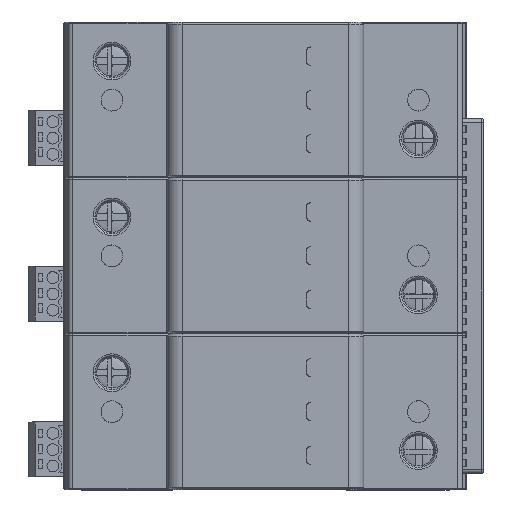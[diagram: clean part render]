
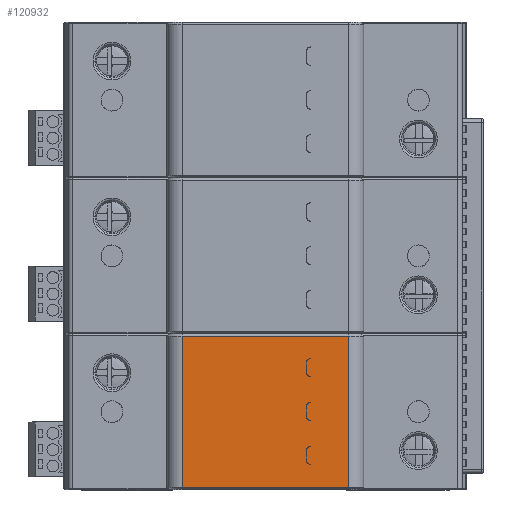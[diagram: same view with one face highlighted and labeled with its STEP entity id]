
A CAD part, top view. The second image highlights one B-rep face of the part: STEP entity #120932.
In plain terms, the highlighted planar face has unit normal (0, 0, 1).
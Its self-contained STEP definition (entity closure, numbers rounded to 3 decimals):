
#19941=DIRECTION('',(-1.,0.,0.));
#19942=VECTOR('',#19941,38.);
#19943=CARTESIAN_POINT('',(64.,0.55,31.2));
#19944=LINE('',#19943,#19942);
#19958=DIRECTION('',(0.,1.,0.));
#19959=VECTOR('',#19958,34.5);
#19960=CARTESIAN_POINT('',(26.,0.55,31.2));
#19961=LINE('',#19960,#19959);
#19966=CARTESIAN_POINT('',(55.45,6.7,31.2));
#19967=DIRECTION('',(0.,0.,1.));
#19968=DIRECTION('',(-1.,0.,0.));
#19969=AXIS2_PLACEMENT_3D('',#19966,#19967,#19968);
#19971=DIRECTION('',(0.,-1.,0.));
#19972=VECTOR('',#19971,2.2);
#19973=CARTESIAN_POINT('',(54.45,8.9,31.2));
#19974=LINE('',#19973,#19972);
#19975=CARTESIAN_POINT('',(55.45,8.9,31.2));
#19976=DIRECTION('',(0.,0.,1.));
#19977=DIRECTION('',(0.,1.,0.));
#19978=AXIS2_PLACEMENT_3D('',#19975,#19976,#19977);
#19980=CARTESIAN_POINT('',(55.4,8.9,31.2));
#19981=DIRECTION('',(0.,0.,-1.));
#19982=DIRECTION('',(-1.,0.,0.));
#19983=AXIS2_PLACEMENT_3D('',#19980,#19981,#19982);
#19985=CARTESIAN_POINT('',(55.4,6.7,31.2));
#19986=DIRECTION('',(0.,0.,-1.));
#19987=DIRECTION('',(0.,-1.,0.));
#19988=AXIS2_PLACEMENT_3D('',#19985,#19986,#19987);
#19990=CARTESIAN_POINT('',(55.45,16.7,31.2));
#19991=DIRECTION('',(0.,0.,1.));
#19992=DIRECTION('',(-1.,0.,0.));
#19993=AXIS2_PLACEMENT_3D('',#19990,#19991,#19992);
#19995=DIRECTION('',(0.,-1.,0.));
#19996=VECTOR('',#19995,2.2);
#19997=CARTESIAN_POINT('',(54.45,18.9,31.2));
#19998=LINE('',#19997,#19996);
#19999=CARTESIAN_POINT('',(55.45,18.9,31.2));
#20000=DIRECTION('',(0.,0.,1.));
#20001=DIRECTION('',(0.,1.,0.));
#20002=AXIS2_PLACEMENT_3D('',#19999,#20000,#20001);
#20004=CARTESIAN_POINT('',(55.4,18.9,31.2));
#20005=DIRECTION('',(0.,0.,-1.));
#20006=DIRECTION('',(-1.,0.,0.));
#20007=AXIS2_PLACEMENT_3D('',#20004,#20005,#20006);
#20009=CARTESIAN_POINT('',(55.4,16.7,31.2));
#20010=DIRECTION('',(0.,0.,-1.));
#20011=DIRECTION('',(0.,-1.,0.));
#20012=AXIS2_PLACEMENT_3D('',#20009,#20010,#20011);
#20014=CARTESIAN_POINT('',(55.45,26.7,31.2));
#20015=DIRECTION('',(0.,0.,1.));
#20016=DIRECTION('',(-1.,0.,0.));
#20017=AXIS2_PLACEMENT_3D('',#20014,#20015,#20016);
#20019=DIRECTION('',(0.,-1.,0.));
#20020=VECTOR('',#20019,2.2);
#20021=CARTESIAN_POINT('',(54.45,28.9,31.2));
#20022=LINE('',#20021,#20020);
#20023=CARTESIAN_POINT('',(55.45,28.9,31.2));
#20024=DIRECTION('',(0.,0.,1.));
#20025=DIRECTION('',(0.,1.,0.));
#20026=AXIS2_PLACEMENT_3D('',#20023,#20024,#20025);
#20028=CARTESIAN_POINT('',(55.4,28.9,31.2));
#20029=DIRECTION('',(0.,0.,-1.));
#20030=DIRECTION('',(-1.,0.,0.));
#20031=AXIS2_PLACEMENT_3D('',#20028,#20029,#20030);
#20033=CARTESIAN_POINT('',(55.4,26.7,31.2));
#20034=DIRECTION('',(0.,0.,-1.));
#20035=DIRECTION('',(0.,-1.,0.));
#20036=AXIS2_PLACEMENT_3D('',#20033,#20034,#20035);
#20042=DIRECTION('',(0.,-1.,0.));
#20043=VECTOR('',#20042,34.5);
#20044=CARTESIAN_POINT('',(64.,35.05,31.2));
#20045=LINE('',#20044,#20043);
#20097=DIRECTION('',(1.,0.,0.));
#20098=VECTOR('',#20097,38.);
#20099=CARTESIAN_POINT('',(26.,35.05,31.2));
#20100=LINE('',#20099,#20098);
#47268=DIRECTION('',(1.,0.,0.));
#47269=VECTOR('',#47268,0.05);
#47270=CARTESIAN_POINT('',(55.4,5.7,31.2));
#47271=LINE('',#47270,#47269);
#50265=DIRECTION('',(0.,-1.,0.));
#50266=VECTOR('',#50265,2.2);
#50267=CARTESIAN_POINT('',(54.4,18.9,31.2));
#50268=LINE('',#50267,#50266);
#50286=DIRECTION('',(1.,0.,0.));
#50287=VECTOR('',#50286,0.05);
#50288=CARTESIAN_POINT('',(55.4,15.7,31.2));
#50289=LINE('',#50288,#50287);
#50332=DIRECTION('',(-1.,0.,0.));
#50333=VECTOR('',#50332,0.05);
#50334=CARTESIAN_POINT('',(55.45,19.9,31.2));
#50335=LINE('',#50334,#50333);
#50541=DIRECTION('',(0.,-1.,0.));
#50542=VECTOR('',#50541,2.2);
#50543=CARTESIAN_POINT('',(54.4,28.9,31.2));
#50544=LINE('',#50543,#50542);
#50562=DIRECTION('',(1.,0.,0.));
#50563=VECTOR('',#50562,0.05);
#50564=CARTESIAN_POINT('',(55.4,25.7,31.2));
#50565=LINE('',#50564,#50563);
#50608=DIRECTION('',(-1.,0.,0.));
#50609=VECTOR('',#50608,0.05);
#50610=CARTESIAN_POINT('',(55.45,29.9,31.2));
#50611=LINE('',#50610,#50609);
#50818=DIRECTION('',(0.,-1.,0.));
#50819=VECTOR('',#50818,2.2);
#50820=CARTESIAN_POINT('',(54.4,8.9,31.2));
#50821=LINE('',#50820,#50819);
#50843=DIRECTION('',(-1.,0.,0.));
#50844=VECTOR('',#50843,0.05);
#50845=CARTESIAN_POINT('',(55.45,9.9,31.2));
#50846=LINE('',#50845,#50844);
#83220=CARTESIAN_POINT('',(55.4,15.7,31.2));
#83221=CARTESIAN_POINT('',(54.4,16.7,31.2));
#83222=VERTEX_POINT('',#83220);
#83223=VERTEX_POINT('',#83221);
#83224=CARTESIAN_POINT('',(54.4,18.9,31.2));
#83225=VERTEX_POINT('',#83224);
#83226=CARTESIAN_POINT('',(55.4,19.9,31.2));
#83227=VERTEX_POINT('',#83226);
#83228=CARTESIAN_POINT('',(55.4,25.7,31.2));
#83229=CARTESIAN_POINT('',(54.4,26.7,31.2));
#83230=VERTEX_POINT('',#83228);
#83231=VERTEX_POINT('',#83229);
#83232=CARTESIAN_POINT('',(54.4,28.9,31.2));
#83233=VERTEX_POINT('',#83232);
#83234=CARTESIAN_POINT('',(55.4,29.9,31.2));
#83235=VERTEX_POINT('',#83234);
#83236=CARTESIAN_POINT('',(55.4,5.7,31.2));
#83237=CARTESIAN_POINT('',(54.4,6.7,31.2));
#83238=VERTEX_POINT('',#83236);
#83239=VERTEX_POINT('',#83237);
#83240=CARTESIAN_POINT('',(54.4,8.9,31.2));
#83241=VERTEX_POINT('',#83240);
#83242=CARTESIAN_POINT('',(55.4,9.9,31.2));
#83243=VERTEX_POINT('',#83242);
#83244=CARTESIAN_POINT('',(64.,35.05,31.2));
#83245=CARTESIAN_POINT('',(64.,0.55,31.2));
#83246=VERTEX_POINT('',#83244);
#83247=VERTEX_POINT('',#83245);
#83248=CARTESIAN_POINT('',(26.,35.05,31.2));
#83249=VERTEX_POINT('',#83248);
#83250=CARTESIAN_POINT('',(26.,0.55,31.2));
#83251=VERTEX_POINT('',#83250);
#84381=CARTESIAN_POINT('',(54.45,8.9,31.2));
#84382=CARTESIAN_POINT('',(54.45,6.7,31.2));
#84383=VERTEX_POINT('',#84381);
#84384=VERTEX_POINT('',#84382);
#84401=CARTESIAN_POINT('',(55.45,9.9,31.2));
#84402=VERTEX_POINT('',#84401);
#84403=CARTESIAN_POINT('',(55.45,5.7,31.2));
#84404=VERTEX_POINT('',#84403);
#84413=CARTESIAN_POINT('',(54.45,18.9,31.2));
#84414=CARTESIAN_POINT('',(54.45,16.7,31.2));
#84415=VERTEX_POINT('',#84413);
#84416=VERTEX_POINT('',#84414);
#84433=CARTESIAN_POINT('',(55.45,19.9,31.2));
#84434=VERTEX_POINT('',#84433);
#84435=CARTESIAN_POINT('',(55.45,15.7,31.2));
#84436=VERTEX_POINT('',#84435);
#84445=CARTESIAN_POINT('',(54.45,28.9,31.2));
#84446=CARTESIAN_POINT('',(54.45,26.7,31.2));
#84447=VERTEX_POINT('',#84445);
#84448=VERTEX_POINT('',#84446);
#84465=CARTESIAN_POINT('',(55.45,29.9,31.2));
#84466=VERTEX_POINT('',#84465);
#84467=CARTESIAN_POINT('',(55.45,25.7,31.2));
#84468=VERTEX_POINT('',#84467);
#120865=CARTESIAN_POINT('',(45.,17.8,31.2));
#120866=DIRECTION('',(0.,0.,1.));
#120867=DIRECTION('',(1.,0.,0.));
#120868=AXIS2_PLACEMENT_3D('',#120865,#120866,#120867);
#120869=PLANE('',#120868);
#120871=ORIENTED_EDGE('',*,*,#120870,.T.);
#120872=ORIENTED_EDGE('',*,*,#120832,.T.);
#120873=ORIENTED_EDGE('',*,*,#120855,.T.);
#120875=ORIENTED_EDGE('',*,*,#120874,.T.);
#120876=EDGE_LOOP('',(#120871,#120872,#120873,#120875));
#120877=FACE_OUTER_BOUND('',#120876,.F.);
#120879=ORIENTED_EDGE('',*,*,#120878,.T.);
#120881=ORIENTED_EDGE('',*,*,#120880,.F.);
#120883=ORIENTED_EDGE('',*,*,#120882,.F.);
#120885=ORIENTED_EDGE('',*,*,#120884,.F.);
#120887=ORIENTED_EDGE('',*,*,#120886,.T.);
#120889=ORIENTED_EDGE('',*,*,#120888,.F.);
#120891=ORIENTED_EDGE('',*,*,#120890,.T.);
#120893=ORIENTED_EDGE('',*,*,#120892,.F.);
#120894=EDGE_LOOP('',(#120879,#120881,#120883,#120885,#120887,#120889,#120891,
#120893));
#120895=FACE_BOUND('',#120894,.F.);
#120897=ORIENTED_EDGE('',*,*,#120896,.T.);
#120899=ORIENTED_EDGE('',*,*,#120898,.F.);
#120901=ORIENTED_EDGE('',*,*,#120900,.F.);
#120903=ORIENTED_EDGE('',*,*,#120902,.F.);
#120905=ORIENTED_EDGE('',*,*,#120904,.T.);
#120907=ORIENTED_EDGE('',*,*,#120906,.F.);
#120909=ORIENTED_EDGE('',*,*,#120908,.T.);
#120911=ORIENTED_EDGE('',*,*,#120910,.F.);
#120912=EDGE_LOOP('',(#120897,#120899,#120901,#120903,#120905,#120907,#120909,
#120911));
#120913=FACE_BOUND('',#120912,.F.);
#120915=ORIENTED_EDGE('',*,*,#120914,.T.);
#120917=ORIENTED_EDGE('',*,*,#120916,.F.);
#120919=ORIENTED_EDGE('',*,*,#120918,.F.);
#120921=ORIENTED_EDGE('',*,*,#120920,.F.);
#120923=ORIENTED_EDGE('',*,*,#120922,.T.);
#120925=ORIENTED_EDGE('',*,*,#120924,.F.);
#120927=ORIENTED_EDGE('',*,*,#120926,.T.);
#120929=ORIENTED_EDGE('',*,*,#120928,.F.);
#120930=EDGE_LOOP('',(#120915,#120917,#120919,#120921,#120923,#120925,#120927,
#120929));
#120931=FACE_BOUND('',#120930,.F.);
#120932=ADVANCED_FACE('',(#120877,#120895,#120913,#120931),#120869,.T.);
#19970=CIRCLE('',#19969,1.);
#19979=CIRCLE('',#19978,1.);
#19984=CIRCLE('',#19983,1.);
#19989=CIRCLE('',#19988,1.);
#19994=CIRCLE('',#19993,1.);
#20003=CIRCLE('',#20002,1.);
#20008=CIRCLE('',#20007,1.);
#20013=CIRCLE('',#20012,1.);
#20018=CIRCLE('',#20017,1.);
#20027=CIRCLE('',#20026,1.);
#20032=CIRCLE('',#20031,1.);
#20037=CIRCLE('',#20036,1.);
#120832=EDGE_CURVE('',#83247,#83251,#19944,.T.);
#120855=EDGE_CURVE('',#83251,#83249,#19961,.T.);
#120870=EDGE_CURVE('',#83246,#83247,#20045,.T.);
#120874=EDGE_CURVE('',#83249,#83246,#20100,.T.);
#120878=EDGE_CURVE('',#83238,#84404,#47271,.T.);
#120880=EDGE_CURVE('',#84384,#84404,#19970,.T.);
#120882=EDGE_CURVE('',#84383,#84384,#19974,.T.);
#120884=EDGE_CURVE('',#84402,#84383,#19979,.T.);
#120886=EDGE_CURVE('',#84402,#83243,#50846,.T.);
#120888=EDGE_CURVE('',#83241,#83243,#19984,.T.);
#120890=EDGE_CURVE('',#83241,#83239,#50821,.T.);
#120892=EDGE_CURVE('',#83238,#83239,#19989,.T.);
#120896=EDGE_CURVE('',#83222,#84436,#50289,.T.);
#120898=EDGE_CURVE('',#84416,#84436,#19994,.T.);
#120900=EDGE_CURVE('',#84415,#84416,#19998,.T.);
#120902=EDGE_CURVE('',#84434,#84415,#20003,.T.);
#120904=EDGE_CURVE('',#84434,#83227,#50335,.T.);
#120906=EDGE_CURVE('',#83225,#83227,#20008,.T.);
#120908=EDGE_CURVE('',#83225,#83223,#50268,.T.);
#120910=EDGE_CURVE('',#83222,#83223,#20013,.T.);
#120914=EDGE_CURVE('',#83230,#84468,#50565,.T.);
#120916=EDGE_CURVE('',#84448,#84468,#20018,.T.);
#120918=EDGE_CURVE('',#84447,#84448,#20022,.T.);
#120920=EDGE_CURVE('',#84466,#84447,#20027,.T.);
#120922=EDGE_CURVE('',#84466,#83235,#50611,.T.);
#120924=EDGE_CURVE('',#83233,#83235,#20032,.T.);
#120926=EDGE_CURVE('',#83233,#83231,#50544,.T.);
#120928=EDGE_CURVE('',#83230,#83231,#20037,.T.);
